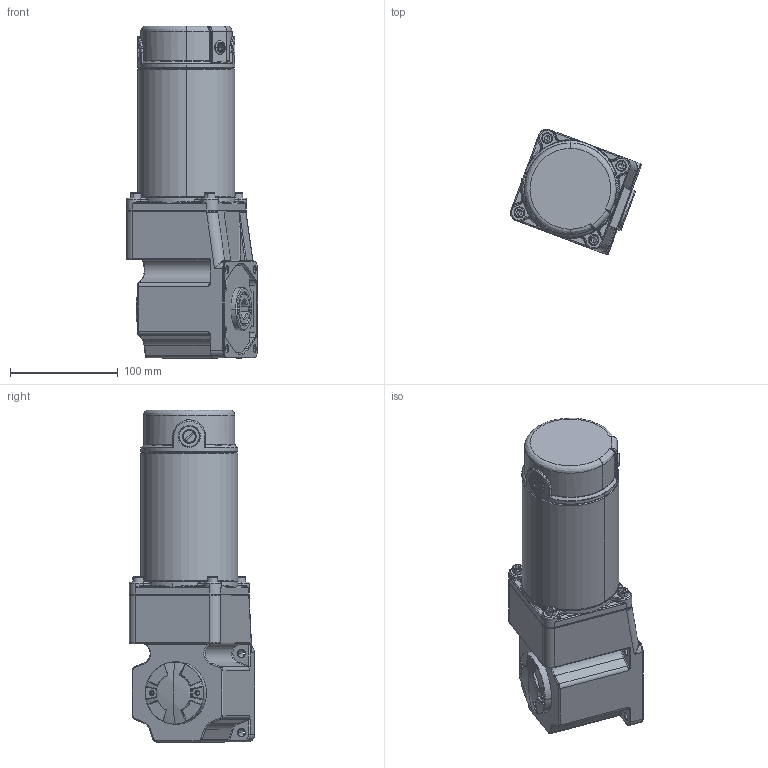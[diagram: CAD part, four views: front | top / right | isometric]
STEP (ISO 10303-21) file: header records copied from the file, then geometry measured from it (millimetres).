
FILE_DESCRIPTION (( 'STEP AP214' ), '1' );
FILE_NAME ('Íâ¾¶90-120»ú¿ÇRC.STEP', '2021-07-23T08:00:26', ( '' ), ( '' ), 'SwSTEP 2.0', 'SolidWorks 2021', '' );
FILE_SCHEMA (( 'AUTOMOTIVE_DESIGN' ));
Length unit declared in the file: millimetre
Products named in the file (8): Z55D-300W-L_1_1; PRT0002_1; PRT0001; 俋噤90-120儂褲RC; PRT0003_1; L; T; 5RC_2
Assembly tree (9 placements, depth 3):
  俋噤90-120儂褲RC
    Z55D-300W-L_1_1
      L  x2
      PRT0001
      PRT0003_1
      PRT0002_1
      T  x2
    5RC_2
Bounding box: 121.75 x 116.29 x 308.5 mm (x, y, z)
Volume: 993167.2 mm3; surface area: 278436.3 mm2
Topology: 22 solids, 24 shells, 2373 faces, 5730 edges, 3383 vertices
Faces by surface type: cylinder 668, plane 534, cone 431, bspline 368, torus 292, sphere 80
Entity records: 101557 total; most frequent: CARTESIAN_POINT 51032, ORIENTED_EDGE 11076, DIRECTION 9738, EDGE_CURVE 5538, AXIS2_PLACEMENT_3D 3999, VERTEX_POINT 3308, EDGE_LOOP 2432, FACE_OUTER_BOUND 2324
